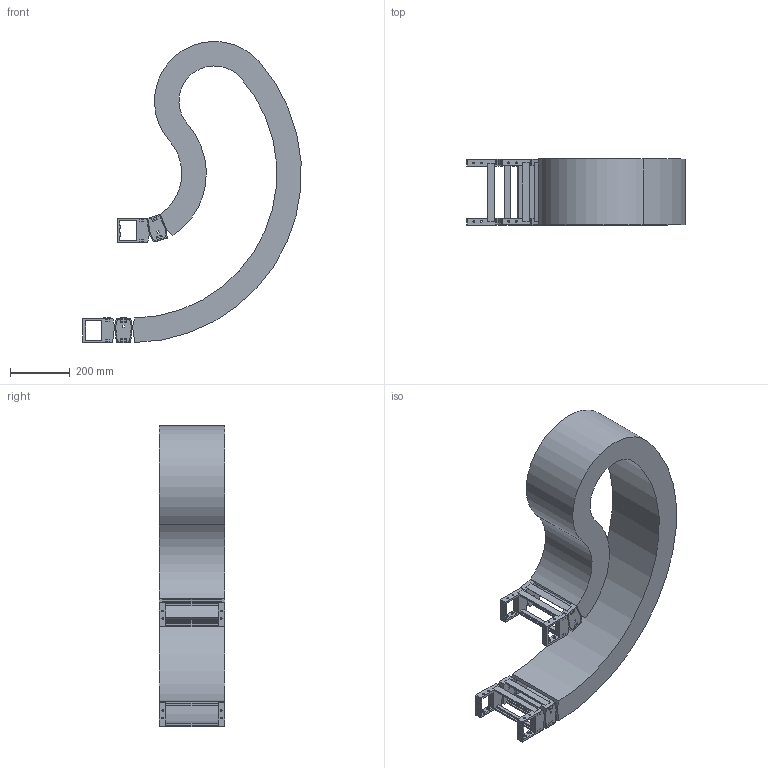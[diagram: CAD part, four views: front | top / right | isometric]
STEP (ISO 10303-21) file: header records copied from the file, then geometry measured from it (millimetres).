
FILE_DESCRIPTION( ( 'STEP AP214' ), '1' );
FILE_NAME( 'p:/temp/worker_35/temp/exporttempdir_3812_1928_j5i8P/format_0/RV060CRA220224.5165120400485-001753025.05950.stp', '2021-07-27T05:42:00', ( 'License CC BY-ND 4.0' ), ( 'CADENAS' ), ' ', 'PARTsolutions', ' ' );
FILE_SCHEMA( ( 'AUTOMOTIVE_DESIGN { 1 0 10303 214 1 1 1 1 }' ) );
Length unit declared in the file: millimetre
Products named in the file (4): RV060CRA220224.5165120400485-001753025.05950; _RV060CRA220228165120400485-001751845.047-Chain; _RV060CR-SU-175-60; _RV060CR_FB-220
Assembly tree (5 placements, depth 2):
  RV060CRA220224.5165120400485-001753025.05950
    _RV060CRA220228165120400485-001751845.047-Chain
    _RV060CR-SU-175-60  x2
    _RV060CR_FB-220  x2
Bounding box: 729.03 x 220 x 1006.74 mm (x, y, z)
Volume: 15814228.1 mm3; surface area: 2471073.1 mm2
Topology: 5 solids, 5 shells, 508 faces, 1476 edges, 988 vertices
Faces by surface type: plane 400, cylinder 108
Full cylindrical faces by diameter (mm): 6 x24
Entity records: 10820 total; most frequent: CARTESIAN_POINT 1528, ORIENTED_EDGE 1500, DIRECTION 1410, EDGE_CURVE 750, LINE 630, VECTOR 630, VERTEX_POINT 508, AXIS2_PLACEMENT_3D 390
